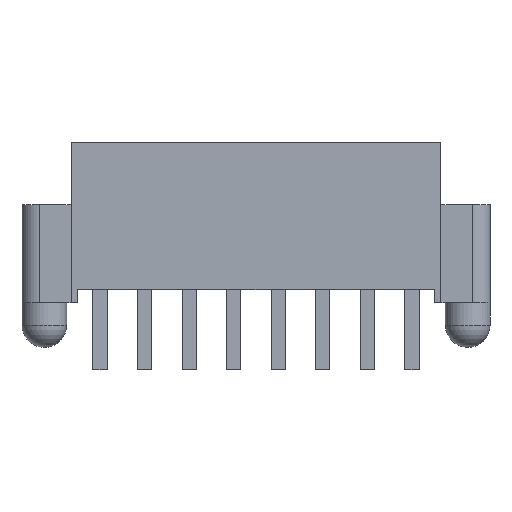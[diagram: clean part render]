
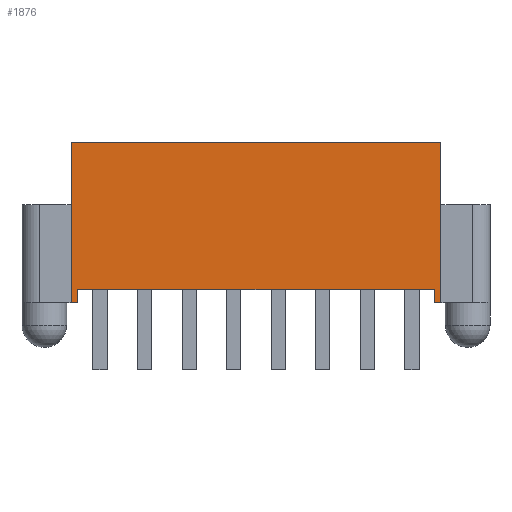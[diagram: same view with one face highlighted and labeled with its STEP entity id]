
A CAD part, top view. The second image highlights one B-rep face of the part: STEP entity #1876.
In plain terms, the highlighted planar face has unit normal (0, 0, 1).
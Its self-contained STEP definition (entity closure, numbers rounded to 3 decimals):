
#173 = CARTESIAN_POINT ( 'NONE',  ( 10.351, 0.381, 1.524 ) ) ;
#495 = VECTOR ( 'NONE', #4948, 1000. ) ;
#568 = DIRECTION ( 'NONE',  ( 1., 0., 0. ) ) ;
#632 = VERTEX_POINT ( 'NONE', #7720 ) ;
#784 = ORIENTED_EDGE ( 'NONE', *, *, #2605, .T. ) ;
#975 = VERTEX_POINT ( 'NONE', #4438 ) ;
#1136 = CARTESIAN_POINT ( 'NONE',  ( 0.191, 0.381, 1.524 ) ) ;
#1804 = FACE_OUTER_BOUND ( 'NONE', #1909, .T. ) ;
#1876 = ADVANCED_FACE ( 'NONE', ( #1804 ), #5850, .T. ) ;
#1909 = EDGE_LOOP ( 'NONE', ( #12009, #8527, #8618, #784, #2027, #9701, #6101, #8437 ) ) ;
#2027 = ORIENTED_EDGE ( 'NONE', *, *, #2932, .F. ) ;
#2070 = LINE ( 'NONE', #6109, #12019 ) ;
#2121 = CARTESIAN_POINT ( 'NONE',  ( 5.271, 0.381, 1.524 ) ) ;
#2140 = VECTOR ( 'NONE', #568, 1000. ) ;
#2605 = EDGE_CURVE ( 'NONE', #7624, #2773, #11024, .T. ) ;
#2773 = VERTEX_POINT ( 'NONE', #5802 ) ;
#2932 = EDGE_CURVE ( 'NONE', #632, #2773, #9459, .T. ) ;
#3408 = VECTOR ( 'NONE', #10188, 1000. ) ;
#3566 = VERTEX_POINT ( 'NONE', #13024 ) ;
#4229 = CARTESIAN_POINT ( 'NONE',  ( 0., 0., 1.524 ) ) ;
#4438 = CARTESIAN_POINT ( 'NONE',  ( 0.191, 0., 1.524 ) ) ;
#4525 = LINE ( 'NONE', #4649, #12937 ) ;
#4607 = CARTESIAN_POINT ( 'NONE',  ( 0., 4.572, 1.524 ) ) ;
#4649 = CARTESIAN_POINT ( 'NONE',  ( 10.351, -0.06, 1.524 ) ) ;
#4948 = DIRECTION ( 'NONE',  ( 0., 1., 0. ) ) ;
#5057 = CARTESIAN_POINT ( 'NONE',  ( 10.541, 0., 1.524 ) ) ;
#5091 = DIRECTION ( 'NONE',  ( 0., 1., 0. ) ) ;
#5365 = DIRECTION ( 'NONE',  ( 0., -1., 0. ) ) ;
#5408 = LINE ( 'NONE', #12452, #2140 ) ;
#5699 = EDGE_CURVE ( 'NONE', #12558, #7624, #13070, .T. ) ;
#5802 = CARTESIAN_POINT ( 'NONE',  ( 0., 4.572, 1.524 ) ) ;
#5850 = PLANE ( 'NONE',  #8729 ) ;
#6101 = ORIENTED_EDGE ( 'NONE', *, *, #10785, .T. ) ;
#6109 = CARTESIAN_POINT ( 'NONE',  ( 0.191, -0.06, 1.524 ) ) ;
#6866 = VECTOR ( 'NONE', #11391, 1000. ) ;
#6919 = VERTEX_POINT ( 'NONE', #173 ) ;
#7404 = CARTESIAN_POINT ( 'NONE',  ( 0., 0., 1.524 ) ) ;
#7424 = DIRECTION ( 'NONE',  ( 0., -1., 0. ) ) ;
#7624 = VERTEX_POINT ( 'NONE', #12313 ) ;
#7720 = CARTESIAN_POINT ( 'NONE',  ( 0., 0., 1.524 ) ) ;
#7905 = DIRECTION ( 'NONE',  ( 0., 0., 1. ) ) ;
#8282 = DIRECTION ( 'NONE',  ( 1., 0., 0. ) ) ;
#8340 = VECTOR ( 'NONE', #10436, 1000. ) ;
#8437 = ORIENTED_EDGE ( 'NONE', *, *, #8595, .T. ) ;
#8527 = ORIENTED_EDGE ( 'NONE', *, *, #11907, .T. ) ;
#8595 = EDGE_CURVE ( 'NONE', #8603, #6919, #11980, .T. ) ;
#8603 = VERTEX_POINT ( 'NONE', #1136 ) ;
#8618 = ORIENTED_EDGE ( 'NONE', *, *, #5699, .T. ) ;
#8729 = AXIS2_PLACEMENT_3D ( 'NONE', #9863, #7905, #5365 ) ;
#9014 = EDGE_CURVE ( 'NONE', #632, #975, #5408, .T. ) ;
#9268 = LINE ( 'NONE', #4229, #12904 ) ;
#9459 = LINE ( 'NONE', #7404, #8340 ) ;
#9701 = ORIENTED_EDGE ( 'NONE', *, *, #9014, .T. ) ;
#9863 = CARTESIAN_POINT ( 'NONE',  ( 5.271, 0., 1.524 ) ) ;
#9902 = CARTESIAN_POINT ( 'NONE',  ( 10.541, 0., 1.524 ) ) ;
#10188 = DIRECTION ( 'NONE',  ( 1., 0., 0. ) ) ;
#10436 = DIRECTION ( 'NONE',  ( 0., 1., 0. ) ) ;
#10785 = EDGE_CURVE ( 'NONE', #975, #8603, #2070, .T. ) ;
#11024 = LINE ( 'NONE', #4607, #6866 ) ;
#11391 = DIRECTION ( 'NONE',  ( -1., 0., 0. ) ) ;
#11907 = EDGE_CURVE ( 'NONE', #3566, #12558, #9268, .T. ) ;
#11980 = LINE ( 'NONE', #2121, #3408 ) ;
#12009 = ORIENTED_EDGE ( 'NONE', *, *, #13054, .T. ) ;
#12019 = VECTOR ( 'NONE', #5091, 1000. ) ;
#12313 = CARTESIAN_POINT ( 'NONE',  ( 10.541, 4.572, 1.524 ) ) ;
#12452 = CARTESIAN_POINT ( 'NONE',  ( 0., 0., 1.524 ) ) ;
#12558 = VERTEX_POINT ( 'NONE', #9902 ) ;
#12904 = VECTOR ( 'NONE', #8282, 1000. ) ;
#12937 = VECTOR ( 'NONE', #7424, 1000. ) ;
#13024 = CARTESIAN_POINT ( 'NONE',  ( 10.351, 0., 1.524 ) ) ;
#13054 = EDGE_CURVE ( 'NONE', #6919, #3566, #4525, .T. ) ;
#13070 = LINE ( 'NONE', #5057, #495 ) ;
